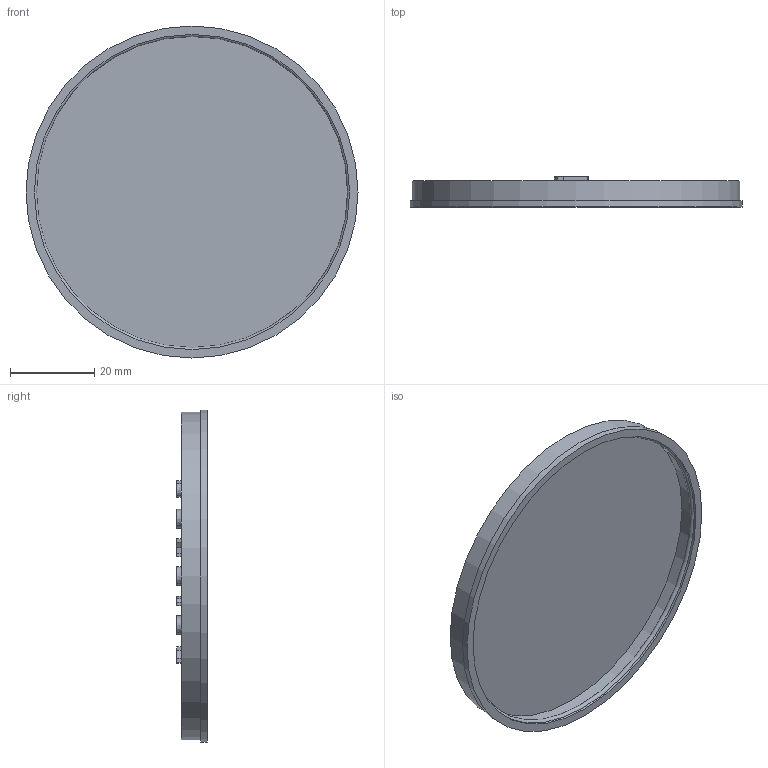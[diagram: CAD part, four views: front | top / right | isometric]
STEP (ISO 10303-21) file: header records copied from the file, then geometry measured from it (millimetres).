
FILE_DESCRIPTION( ( 'Unknown' ), '1' );
FILE_NAME( 'X:/Daten ( aktueller Bestand )/Projekte und Zeichnungen/Solid Edge/4 Dichtungsbauteile und Zubehör/1327.stp', 'Unknown', ( 'Unknown' ), ( 'Unknown' ), 'XStep 1.0', 'Unknown', ' ' );
FILE_SCHEMA( ( 'automotive_design' ) );
Length unit declared in the file: millimetre
Products named in the file (1): 1
Bounding box: 79 x 7.2 x 79 mm (x, y, z)
Volume: 9225.4 mm3; surface area: 12749.1 mm2
Topology: 1 solids, 1 shells, 67 faces, 157 edges, 104 vertices
Faces by surface type: plane 49, extrusion 13, cylinder 4, torus 1
Full cylindrical faces by diameter (mm): 75 x2, 78 x1, 79 x1
Entity records: 2954 total; most frequent: CARTESIAN_POINT 1076, ORIENTED_EDGE 296, DIRECTION 183, EDGE_CURVE 148, B_SPLINE_CURVE_WITH_KNOTS 109, VERTEX_POINT 104, EDGE_LOOP 88, FACE_OUTER_BOUND 76
